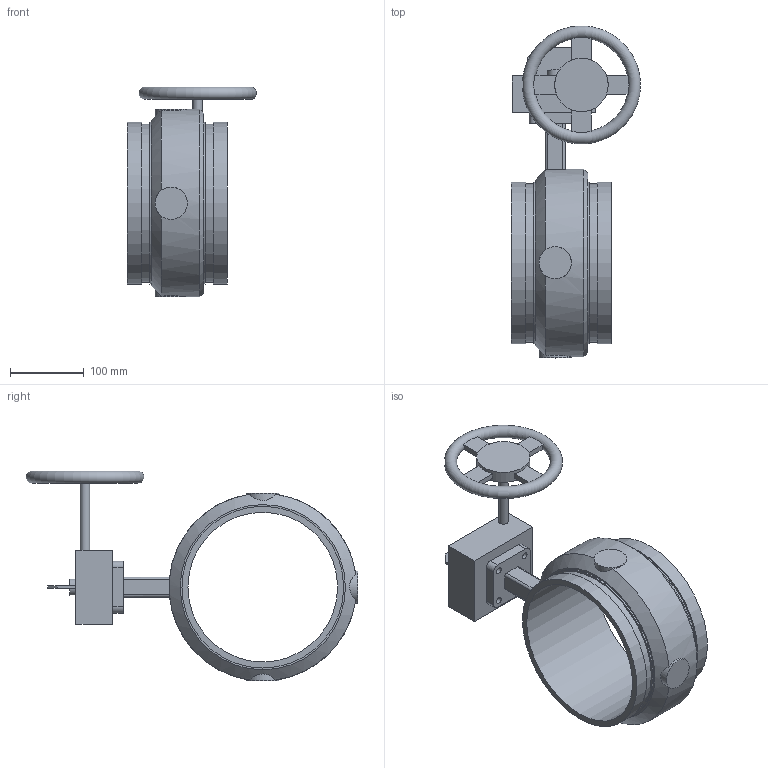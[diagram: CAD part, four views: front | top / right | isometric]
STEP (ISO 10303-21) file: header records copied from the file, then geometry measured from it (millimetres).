
FILE_DESCRIPTION(/* description */ ('VIC FP VALVE BUTTERFLY HP SERIES 766 (OGS)'),/* implementation_level */ '2;1');
FILE_NAME(/* name */ 'C:\Files for Export\766\Victaulic_EU_FP_Vlv Btfl HP_Series 766 (OGS)\Victaulic_EU_FP_Vlv Btfl HP_Series 766 (OGS)_8 (200).stp',/* time_stamp */ '2024-06-27T12:47:08+02:00',/* author */ ('cps_temp'),/* organization */ ('Victaulic'),/* preprocessor_version */ 'ST-DEVELOPER v18.1',/* originating_system */ 'Autodesk Inventor 2020',/* authorisation */ '');
FILE_SCHEMA (('AUTOMOTIVE_DESIGN { 1 0 10303 214 3 1 1 }'));
Length unit declared in the file: inch
Products named in the file (1): 766-08.0
Bounding box: 174.72 x 449.37 x 284.23 mm (x, y, z)
Volume: 2416030.8 mm3; surface area: 331808.9 mm2
Topology: 1 solids, 2 shells, 91 faces, 241 edges, 164 vertices
Faces by surface type: plane 59, cylinder 29, cone 2, torus 1
Full cylindrical faces by diameter (mm): 8.636 x4, 12.7 x2, 43.688 x3, 55.118 x1, 72.39 x1, 202.717 x1, 214.401 x2, 219.075 x4, 254 x1
Entity records: 3381 total; most frequent: CARTESIAN_POINT 874, DIRECTION 494, ORIENTED_EDGE 482, EDGE_CURVE 241, AXIS2_PLACEMENT_3D 191, VERTEX_POINT 164, EDGE_LOOP 113, LINE 112
